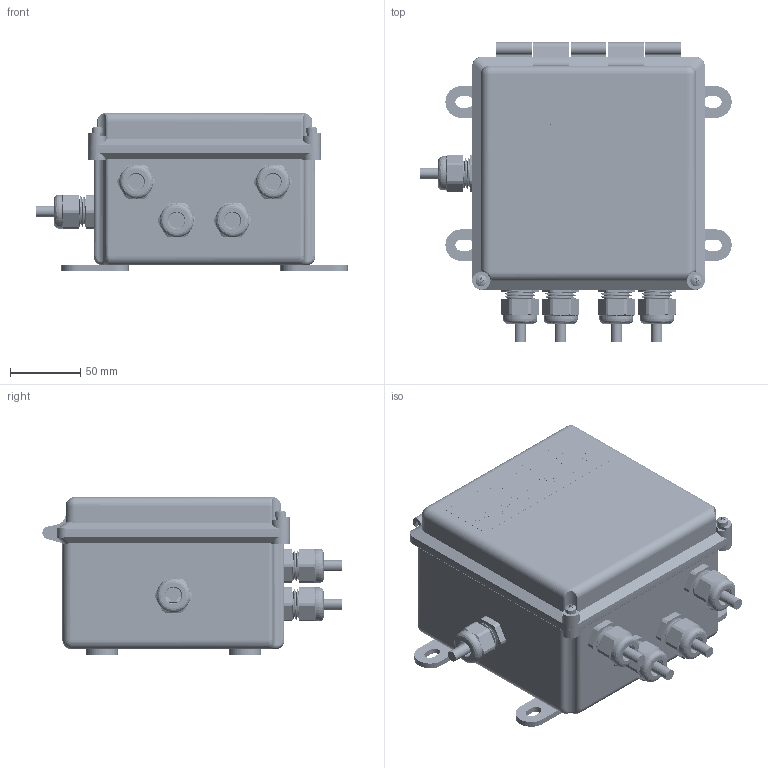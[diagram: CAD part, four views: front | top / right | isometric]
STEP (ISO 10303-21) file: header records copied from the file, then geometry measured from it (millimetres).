
FILE_DESCRIPTION (( 'STEP AP203' ), '1' );
FILE_NAME ('HI6020IT-FG2.STEP', '2021-06-10T19:51:47', ( '' ), ( '' ), 'SwSTEP 2.0', 'SolidWorks 2020', '' );
FILE_SCHEMA (( 'CONFIG_CONTROL_DESIGN' ));
Products named in the file (23): a664chscfg_06; 0530-0800-01-0; 0508-0838; a664chscfg_05; 2140-0137-09-0; 4617-0010-0; 6007-0097-0; a664chscfg_02; 0529-0024-01-0; 2140-0136-07-0; 0535-0573-XX-0; HI6020IT-FG2; McMaster_91737A210_18-8 SS FILLISTER HEAD PHILLIPS MACHINE SCREW_91737A210; a664chscfg_04; McMaster_90272A827_ZINC-PLTD STL PAN HEAD PHILLIPS MACHINE SCREW_90272A827; 2814-0095-0; a664chscfg_03; 0530-0798-01-0; 2140-0137-07-0; 2140-0136-09-0; 2817-0182_90400A219; a664chscfg_01; 0534-0573-01-0
Assembly tree (52 placements, depth 3):
  HI6020IT-FG2
    0535-0573-XX-0
      0534-0573-01-0
      4617-0010-0  x4
      2140-0136-07-0  x4
      2140-0137-07-0  x4
      2140-0136-09-0  x2
      2140-0137-09-0  x2
    0508-0838
      a664chscfg_01
      a664chscfg_02
      a664chscfg_03
      a664chscfg_04
      a664chscfg_05
      a664chscfg_06
      McMaster_90272A827_ZINC-PLTD STL PAN HEAD PHILLIPS MACHINE SCREW_90272A827  x4
      McMaster_91737A210_18-8 SS FILLISTER HEAD PHILLIPS MACHINE SCREW_91737A210  x2
    2817-0182_90400A219  x4
    6007-0097-0  x5
    2814-0095-0  x5
    0529-0024-01-0  x5
    0530-0798-01-0
    0530-0800-01-0
Bounding box: 220.99 x 212.4 x 112.3 mm (x, y, z)
Volume: 574238.2 mm3; surface area: 405938.7 mm2
Topology: 535 solids, 539 shells, 16009 faces, 41409 edges, 27102 vertices
Faces by surface type: plane 9631, cylinder 3154, bspline 2557, cone 401, torus 176, sphere 90
Entity records: 402639 total; most frequent: CARTESIAN_POINT 169565, ORIENTED_EDGE 52048, DIRECTION 38281, EDGE_CURVE 26024, VECTOR 17603, LINE 17603, VERTEX_POINT 17173, EDGE_LOOP 10825
